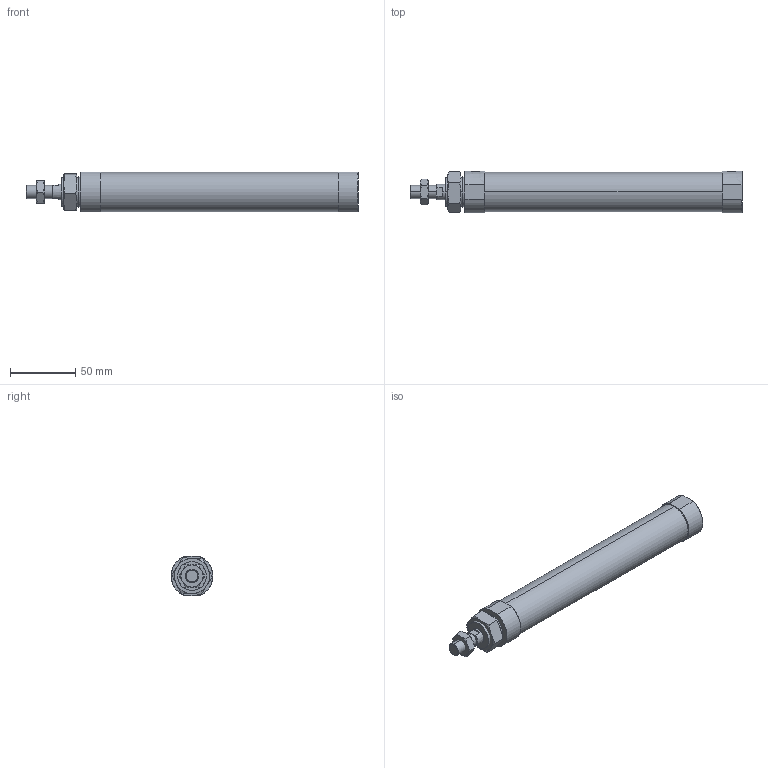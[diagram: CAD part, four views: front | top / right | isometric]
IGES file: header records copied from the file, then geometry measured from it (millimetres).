
Start section: SolidWorks IGES file using analytic representation for surfaces
Global section: file name: C:\Users\Toshiba\Desktop\JGND2-25-150-N.IGS; native system: SolidWorks 2014; preprocessor: SolidWorks 2014; author: Toshiba; date: 160804.104240; units: millimetre
Bounding box: 254 x 32 x 30 mm (x, y, z)
Surface area: 28058.6 mm2 (no closed solid volume)
Topology: 0 solids, 0 shells, 89 faces, 1592 edges, 1588 vertices
Faces by surface type: bspline 59, revolution 30
